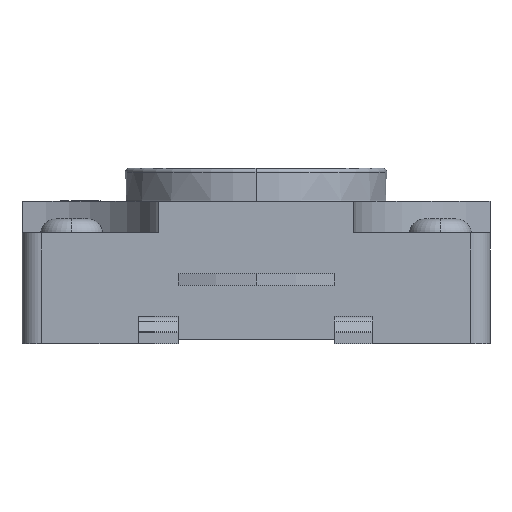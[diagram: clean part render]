
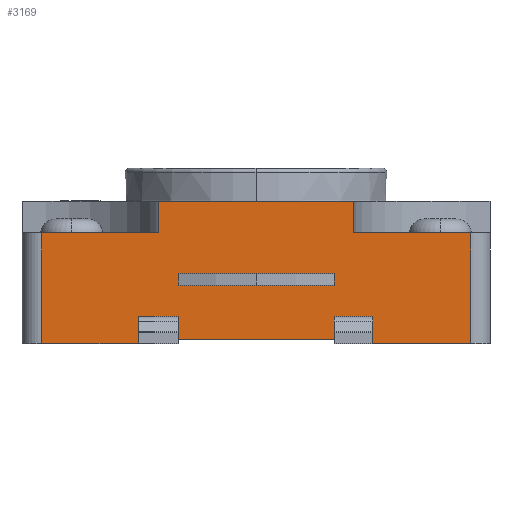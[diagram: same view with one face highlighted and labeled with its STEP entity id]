
A CAD part, left-side view. The second image highlights one B-rep face of the part: STEP entity #3169.
In plain terms, the highlighted planar face has unit normal (-1, 0, 0).
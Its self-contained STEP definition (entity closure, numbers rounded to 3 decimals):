
#125=DIRECTION('',(0.,-1.,0.));
#126=VECTOR('',#125,3.);
#127=CARTESIAN_POINT('',(-75.489,35.27,1.15));
#128=LINE('',#127,#126);
#129=DIRECTION('',(0.,1.,0.));
#130=VECTOR('',#129,4.);
#131=CARTESIAN_POINT('',(-75.489,35.77,0.1));
#132=LINE('',#131,#130);
#133=DIRECTION('',(0.,0.,-1.));
#134=VECTOR('',#133,0.3);
#135=CARTESIAN_POINT('',(-75.489,40.77,
-1.));
#136=LINE('',#135,#134);
#137=DIRECTION('',(0.,1.,0.));
#138=VECTOR('',#137,1.);
#139=CARTESIAN_POINT('',(-75.489,39.77,-1.3));
#140=LINE('',#139,#138);
#141=DIRECTION('',(0.,0.,-1.));
#142=VECTOR('',#141,0.3);
#143=CARTESIAN_POINT('',(-75.489,39.77,
-1.));
#144=LINE('',#143,#142);
#145=DIRECTION('',(0.,1.,0.));
#146=VECTOR('',#145,1.);
#147=CARTESIAN_POINT('',(-75.489,39.77,
-1.));
#148=LINE('',#147,#146);
#149=DIRECTION('',(0.,0.,-1.));
#150=VECTOR('',#149,0.3);
#151=CARTESIAN_POINT('',(-75.489,34.77,
-1.));
#152=LINE('',#151,#150);
#153=DIRECTION('',(0.,-1.,0.));
#154=VECTOR('',#153,1.);
#155=CARTESIAN_POINT('',(-75.489,35.77,
-1.));
#156=LINE('',#155,#154);
#157=DIRECTION('',(0.,0.,1.));
#158=VECTOR('',#157,0.3);
#159=CARTESIAN_POINT('',(-75.489,35.77,-1.3));
#160=LINE('',#159,#158);
#161=DIRECTION('',(0.,-1.,0.));
#162=VECTOR('',#161,1.);
#163=CARTESIAN_POINT('',(-75.489,35.77,-1.3));
#164=LINE('',#163,#162);
#169=DIRECTION('',(0.,0.,-1.));
#170=VECTOR('',#169,1.05);
#171=CARTESIAN_POINT('',(-75.489,43.27,1.15));
#172=LINE('',#171,#170);
#173=DIRECTION('',(0.,0.,-1.));
#174=VECTOR('',#173,1.8);
#175=CARTESIAN_POINT('',(-75.489,43.27,0.1));
#176=LINE('',#175,#174);
#316=DIRECTION('',(0.,0.,-1.));
#317=VECTOR('',#316,0.3);
#318=CARTESIAN_POINT('',(-75.489,35.77,0.1));
#319=LINE('',#318,#317);
#333=DIRECTION('',(0.,1.,0.));
#334=VECTOR('',#333,4.);
#335=CARTESIAN_POINT('',(-75.489,35.77,-0.2));
#336=LINE('',#335,#334);
#386=DIRECTION('',(0.,0.,1.));
#387=VECTOR('',#386,0.3);
#388=CARTESIAN_POINT('',(-75.489,39.77,-0.2));
#389=LINE('',#388,#387);
#485=DIRECTION('',(0.,0.,1.));
#486=VECTOR('',#485,1.8);
#487=CARTESIAN_POINT('',(-75.489,32.27,-1.7));
#488=LINE('',#487,#486);
#489=DIRECTION('',(0.,0.,1.));
#490=VECTOR('',#489,1.05);
#491=CARTESIAN_POINT('',(-75.489,32.27,0.1));
#492=LINE('',#491,#490);
#511=DIRECTION('',(0.,0.,1.));
#512=VECTOR('',#511,0.8);
#513=CARTESIAN_POINT('',(-75.489,35.27,1.15));
#514=LINE('',#513,#512);
#519=DIRECTION('',(0.,1.,0.));
#520=VECTOR('',#519,5.);
#521=CARTESIAN_POINT('',(-75.489,35.27,1.95));
#522=LINE('',#521,#520);
#792=DIRECTION('',(0.,0.,-1.));
#793=VECTOR('',#792,0.8);
#794=CARTESIAN_POINT('',(-75.489,40.27,1.95));
#795=LINE('',#794,#793);
#809=DIRECTION('',(0.,1.,0.));
#810=VECTOR('',#809,3.);
#811=CARTESIAN_POINT('',(-75.489,40.27,1.15));
#812=LINE('',#811,#810);
#1503=DIRECTION('',(0.,-1.,0.));
#1504=VECTOR('',#1503,3.);
#1505=CARTESIAN_POINT('',(-75.489,35.27,-1.7));
#1506=LINE('',#1505,#1504);
#1525=DIRECTION('',(0.,0.,-1.));
#1526=VECTOR('',#1525,0.1);
#1527=CARTESIAN_POINT('',(-75.489,35.27,-1.6));
#1528=LINE('',#1527,#1526);
#1537=DIRECTION('',(0.,-1.,0.));
#1538=VECTOR('',#1537,5.);
#1539=CARTESIAN_POINT('',(-75.489,40.27,-1.6));
#1540=LINE('',#1539,#1538);
#1545=DIRECTION('',(0.,0.,1.));
#1546=VECTOR('',#1545,0.1);
#1547=CARTESIAN_POINT('',(-75.489,40.27,-1.7));
#1548=LINE('',#1547,#1546);
#1566=DIRECTION('',(0.,-1.,0.));
#1567=VECTOR('',#1566,3.);
#1568=CARTESIAN_POINT('',(-75.489,43.27,-1.7));
#1569=LINE('',#1568,#1567);
#2227=CARTESIAN_POINT('',(-75.489,35.77,-0.2));
#2228=CARTESIAN_POINT('',(-75.489,39.77,-0.2));
#2229=VERTEX_POINT('',#2227);
#2230=VERTEX_POINT('',#2228);
#2231=CARTESIAN_POINT('',(-75.489,40.27,-1.6));
#2232=CARTESIAN_POINT('',(-75.489,35.27,-1.6));
#2233=VERTEX_POINT('',#2231);
#2234=VERTEX_POINT('',#2232);
#2235=CARTESIAN_POINT('',(-75.489,40.27,-1.7));
#2236=VERTEX_POINT('',#2235);
#2267=CARTESIAN_POINT('',(-75.489,43.27,-1.7));
#2268=VERTEX_POINT('',#2267);
#2277=CARTESIAN_POINT('',(-75.489,35.27,-1.7));
#2278=VERTEX_POINT('',#2277);
#2281=CARTESIAN_POINT('',(-75.489,32.27,-1.7));
#2282=VERTEX_POINT('',#2281);
#2347=CARTESIAN_POINT('',(-75.489,35.27,1.15));
#2348=VERTEX_POINT('',#2347);
#2349=CARTESIAN_POINT('',(-75.489,32.27,1.15));
#2350=VERTEX_POINT('',#2349);
#2351=CARTESIAN_POINT('',(-75.489,40.27,1.15));
#2352=CARTESIAN_POINT('',(-75.489,43.27,1.15));
#2353=VERTEX_POINT('',#2351);
#2354=VERTEX_POINT('',#2352);
#2375=CARTESIAN_POINT('',(-75.489,35.27,1.95));
#2376=CARTESIAN_POINT('',(-75.489,40.27,1.95));
#2377=VERTEX_POINT('',#2375);
#2378=VERTEX_POINT('',#2376);
#2673=CARTESIAN_POINT('',(-75.489,35.77,0.1));
#2674=VERTEX_POINT('',#2673);
#2676=CARTESIAN_POINT('',(-75.489,39.77,0.1));
#2678=VERTEX_POINT('',#2676);
#2711=CARTESIAN_POINT('',(-75.489,43.27,0.1));
#2712=VERTEX_POINT('',#2711);
#2717=CARTESIAN_POINT('',(-75.489,32.27,0.1));
#2718=VERTEX_POINT('',#2717);
#2727=CARTESIAN_POINT('',(-75.489,40.77,
-1.));
#2728=CARTESIAN_POINT('',(-75.489,40.77,-1.3));
#2729=VERTEX_POINT('',#2727);
#2730=VERTEX_POINT('',#2728);
#2731=CARTESIAN_POINT('',(-75.489,39.77,
-1.));
#2732=VERTEX_POINT('',#2731);
#2733=CARTESIAN_POINT('',(-75.489,39.77,-1.3));
#2734=VERTEX_POINT('',#2733);
#2743=CARTESIAN_POINT('',(-75.489,34.77,
-1.));
#2744=CARTESIAN_POINT('',(-75.489,34.77,-1.3));
#2745=VERTEX_POINT('',#2743);
#2746=VERTEX_POINT('',#2744);
#2747=CARTESIAN_POINT('',(-75.489,35.77,-1.3));
#2748=VERTEX_POINT('',#2747);
#2749=CARTESIAN_POINT('',(-75.489,35.77,
-1.));
#2750=VERTEX_POINT('',#2749);
#3105=CARTESIAN_POINT('',(-75.489,37.77,-0.8));
#3106=DIRECTION('',(1.,0.,0.));
#3107=DIRECTION('',(0.,1.,0.));
#3108=AXIS2_PLACEMENT_3D('',#3105,#3106,#3107);
#3109=PLANE('',#3108);
#3111=ORIENTED_EDGE('',*,*,#3110,.F.);
#3113=ORIENTED_EDGE('',*,*,#3112,.F.);
#3115=ORIENTED_EDGE('',*,*,#3114,.F.);
#3117=ORIENTED_EDGE('',*,*,#3116,.F.);
#3119=ORIENTED_EDGE('',*,*,#3118,.F.);
#3121=ORIENTED_EDGE('',*,*,#3120,.F.);
#3123=ORIENTED_EDGE('',*,*,#3122,.T.);
#3125=ORIENTED_EDGE('',*,*,#3124,.F.);
#3127=ORIENTED_EDGE('',*,*,#3126,.F.);
#3129=ORIENTED_EDGE('',*,*,#3128,.F.);
#3131=ORIENTED_EDGE('',*,*,#3130,.F.);
#3133=ORIENTED_EDGE('',*,*,#3132,.F.);
#3135=ORIENTED_EDGE('',*,*,#3134,.F.);
#3137=ORIENTED_EDGE('',*,*,#3136,.F.);
#3138=EDGE_LOOP('',(#3111,#3113,#3115,#3117,#3119,#3121,#3123,#3125,#3127,#3129,
#3131,#3133,#3135,#3137));
#3139=FACE_OUTER_BOUND('',#3138,.F.);
#3141=ORIENTED_EDGE('',*,*,#3140,.F.);
#3143=ORIENTED_EDGE('',*,*,#3142,.T.);
#3145=ORIENTED_EDGE('',*,*,#3144,.F.);
#3147=ORIENTED_EDGE('',*,*,#3146,.F.);
#3148=EDGE_LOOP('',(#3141,#3143,#3145,#3147));
#3149=FACE_BOUND('',#3148,.F.);
#3151=ORIENTED_EDGE('',*,*,#3150,.T.);
#3153=ORIENTED_EDGE('',*,*,#3152,.F.);
#3155=ORIENTED_EDGE('',*,*,#3154,.F.);
#3157=ORIENTED_EDGE('',*,*,#3156,.T.);
#3158=EDGE_LOOP('',(#3151,#3153,#3155,#3157));
#3159=FACE_BOUND('',#3158,.F.);
#3161=ORIENTED_EDGE('',*,*,#3160,.F.);
#3162=ORIENTED_EDGE('',*,*,#3079,.F.);
#3164=ORIENTED_EDGE('',*,*,#3163,.F.);
#3166=ORIENTED_EDGE('',*,*,#3165,.T.);
#3167=EDGE_LOOP('',(#3161,#3162,#3164,#3166));
#3168=FACE_BOUND('',#3167,.F.);
#3079=EDGE_CURVE('',#2750,#2745,#156,.T.);
#3110=EDGE_CURVE('',#2712,#2268,#176,.T.);
#3112=EDGE_CURVE('',#2354,#2712,#172,.T.);
#3114=EDGE_CURVE('',#2353,#2354,#812,.T.);
#3116=EDGE_CURVE('',#2378,#2353,#795,.T.);
#3118=EDGE_CURVE('',#2377,#2378,#522,.T.);
#3120=EDGE_CURVE('',#2348,#2377,#514,.T.);
#3122=EDGE_CURVE('',#2348,#2350,#128,.T.);
#3124=EDGE_CURVE('',#2718,#2350,#492,.T.);
#3126=EDGE_CURVE('',#2282,#2718,#488,.T.);
#3128=EDGE_CURVE('',#2278,#2282,#1506,.T.);
#3130=EDGE_CURVE('',#2234,#2278,#1528,.T.);
#3132=EDGE_CURVE('',#2233,#2234,#1540,.T.);
#3134=EDGE_CURVE('',#2236,#2233,#1548,.T.);
#3136=EDGE_CURVE('',#2268,#2236,#1569,.T.);
#3140=EDGE_CURVE('',#2674,#2229,#319,.T.);
#3142=EDGE_CURVE('',#2674,#2678,#132,.T.);
#3144=EDGE_CURVE('',#2230,#2678,#389,.T.);
#3146=EDGE_CURVE('',#2229,#2230,#336,.T.);
#3150=EDGE_CURVE('',#2729,#2730,#136,.T.);
#3152=EDGE_CURVE('',#2734,#2730,#140,.T.);
#3154=EDGE_CURVE('',#2732,#2734,#144,.T.);
#3156=EDGE_CURVE('',#2732,#2729,#148,.T.);
#3160=EDGE_CURVE('',#2745,#2746,#152,.T.);
#3163=EDGE_CURVE('',#2748,#2750,#160,.T.);
#3165=EDGE_CURVE('',#2748,#2746,#164,.T.);
#3169=ADVANCED_FACE('',(#3139,#3149,#3159,#3168),#3109,.F.);
